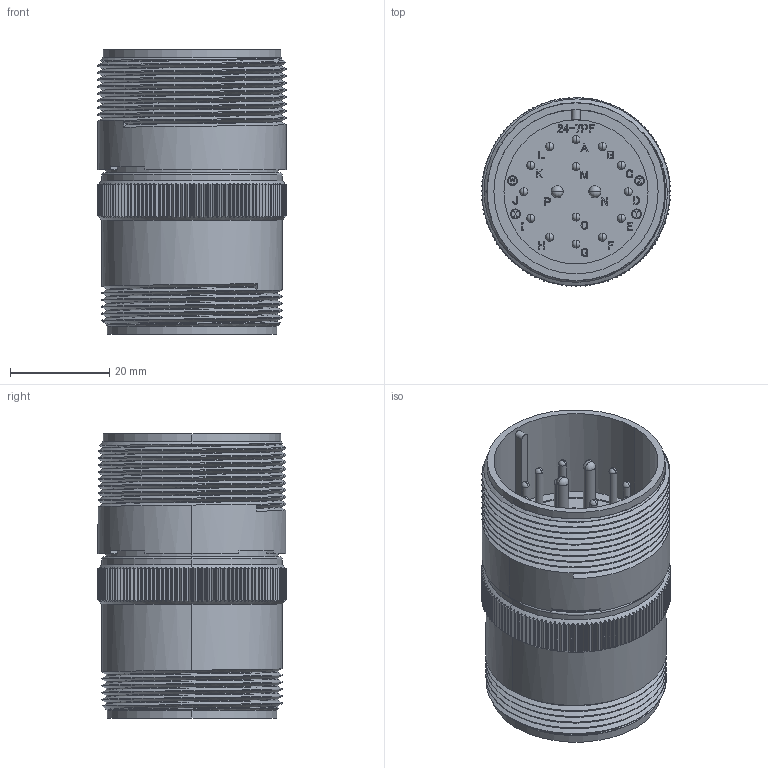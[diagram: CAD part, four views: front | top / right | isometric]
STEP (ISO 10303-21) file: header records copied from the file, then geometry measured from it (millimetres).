
FILE_DESCRIPTION (( 'STEP AP203' ), '1' );
FILE_NAME ('DMS3101A24-7P.STEP', '2017-11-10T00:38:24', ( '' ), ( '' ), 'SwSTEP 2.0', 'SolidWorks 2015', '' );
FILE_SCHEMA (( 'CONFIG_CONTROL_DESIGN' ));
Length unit declared in the file: millimetre
Products named in the file (1): DMS3101A24-7P
Bounding box: 38.2 x 38.19 x 57.36 mm (x, y, z)
Volume: 25891.6 mm3; surface area: 20217 mm2
Topology: 1 solids, 1 shells, 2066 faces, 5766 edges, 3777 vertices
Faces by surface type: plane 952, cylinder 800, bspline 233, cone 47, sphere 28, torus 6
Entity records: 82540 total; most frequent: CARTESIAN_POINT 33470, ORIENTED_EDGE 11420, DIRECTION 8261, EDGE_CURVE 5710, VERTEX_POINT 3777, LINE 3033, VECTOR 3033, AXIS2_PLACEMENT_3D 2614
